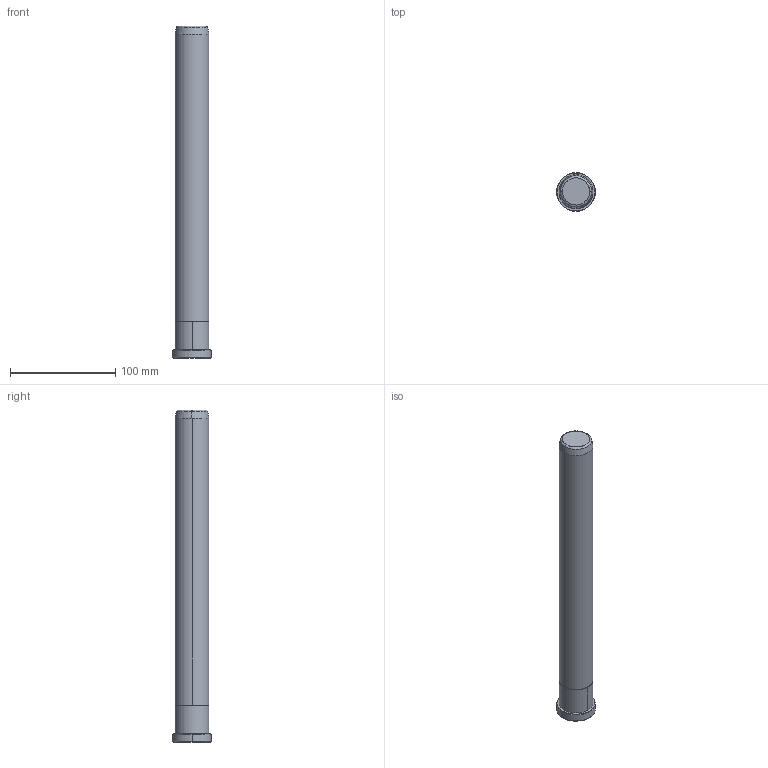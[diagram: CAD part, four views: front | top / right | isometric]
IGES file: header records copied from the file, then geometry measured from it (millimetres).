
Start section: START RECORD GO HERE.
Global section: file name: B80832315.igs; native system: DASSAULT SYSTEMES CATIA V5 R20 - www.3ds.com; preprocessor: CATIA Version 5 Release 20 ; author: Utente; organization: NB04-ASUS; date: 20200419.164632; units: millimetre
Bounding box: 37 x 37 x 315 mm (x, y, z)
Surface area: 33664.1 mm2 (no closed solid volume)
Topology: 0 solids, 0 shells, 20 faces, 80 edges, 80 vertices
Faces by surface type: revolution 16, plane 4
